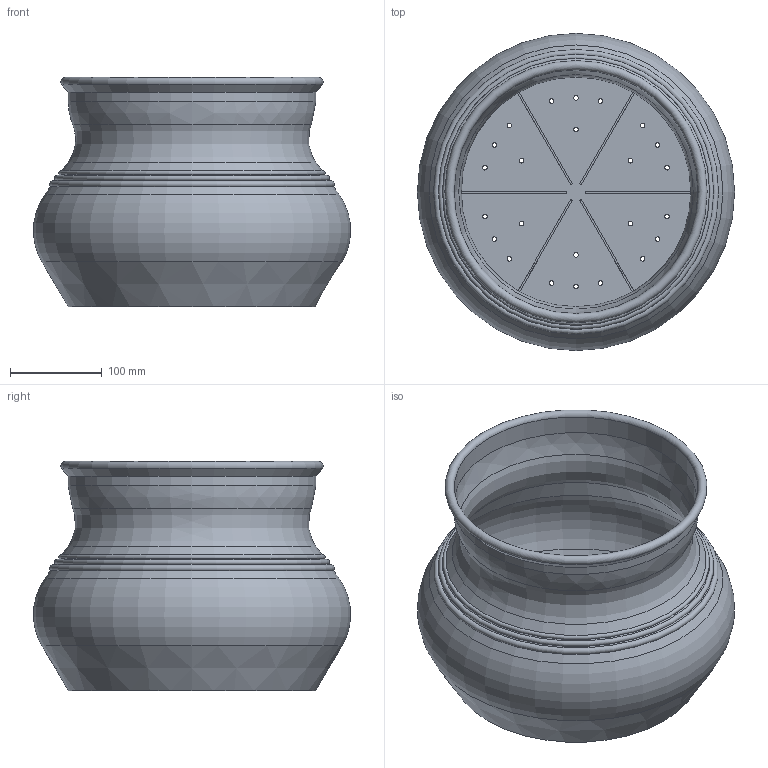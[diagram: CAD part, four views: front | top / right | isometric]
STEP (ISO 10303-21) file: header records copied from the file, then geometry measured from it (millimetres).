
FILE_DESCRIPTION(/* description */ (''),/* implementation_level */ '2;1');
FILE_NAME(/* name */ 'LR2406-S20-H250-D350_step.step',/* time_stamp */ '2024-02-01T11:01:59+01:00',/* author */ (''),/* organization */ (''),/* preprocessor_version */ 'ST-DEVELOPER v20',/* originating_system */ 'Autodesk Translation Framework v12.20.1.177',/* authorisation */ '');
FILE_SCHEMA (('AUTOMOTIVE_DESIGN { 1 0 10303 214 3 1 1 }'));
Length unit declared in the file: millimetre
Products named in the file (1): LR2406-S20-H250-D350
Bounding box: 345.91 x 345.91 x 250 mm (x, y, z)
Volume: 706776.6 mm3; surface area: 639491.6 mm2
Topology: 1 solids, 1 shells, 70 faces, 185 edges, 117 vertices
Faces by surface type: cylinder 32, plane 20, cone 8, torus 8, bspline 2
Full cylindrical faces by diameter (mm): 5 x24, 266 x1, 270 x1
Entity records: 2380 total; most frequent: DIRECTION 426, CARTESIAN_POINT 425, ORIENTED_EDGE 370, EDGE_CURVE 185, AXIS2_PLACEMENT_3D 172, EDGE_LOOP 118, VERTEX_POINT 117, CIRCLE 103
